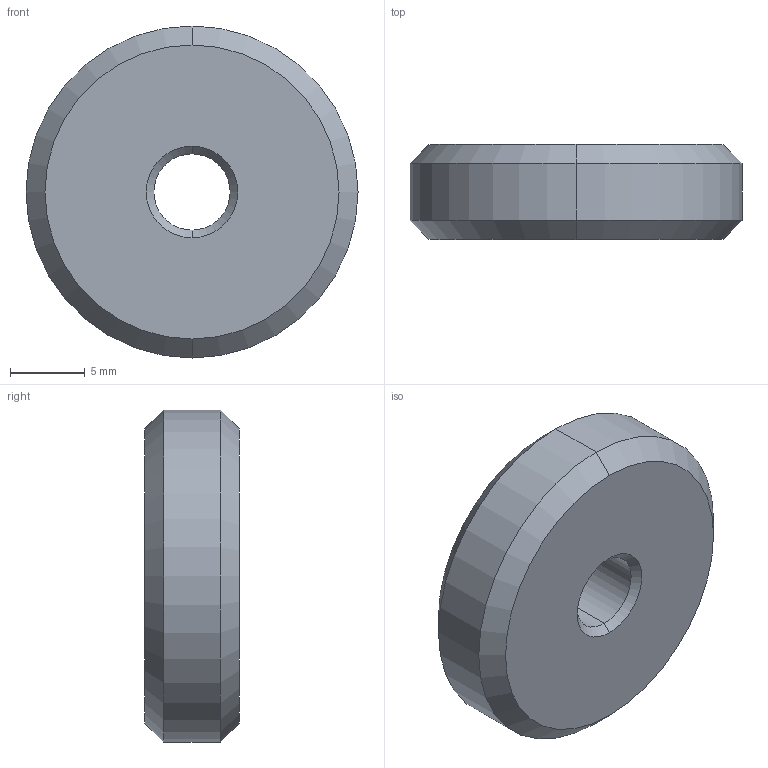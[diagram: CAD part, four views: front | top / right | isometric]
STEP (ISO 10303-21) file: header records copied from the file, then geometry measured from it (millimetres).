
FILE_DESCRIPTION (( 'STEP AP203' ), '1' );
FILE_NAME ('FDPCK-MC.75-1_4-JAMNUT.step', '2019-09-11T18:30:17', ( 'ydmin' ), ( '' ), 'SwSTEP 2.0', 'SolidWorks 2017', '' );
FILE_SCHEMA (( 'CONFIG_CONTROL_DESIGN' ));
Length unit declared in the file: inch
Products named in the file (1): FDPCK-MC.75-1_4-JAMNUT
Bounding box: 22.23 x 6.35 x 22.23 mm (x, y, z)
Volume: 2220.7 mm3; surface area: 1163.2 mm2
Topology: 1 solids, 1 shells, 14 faces, 28 edges, 16 vertices
Faces by surface type: cone 8, cylinder 4, plane 2
Entity records: 447 total; most frequent: DIRECTION 74, CARTESIAN_POINT 59, ORIENTED_EDGE 56, AXIS2_PLACEMENT_3D 31, EDGE_CURVE 28, VERTEX_POINT 16, CIRCLE 16, EDGE_LOOP 16
